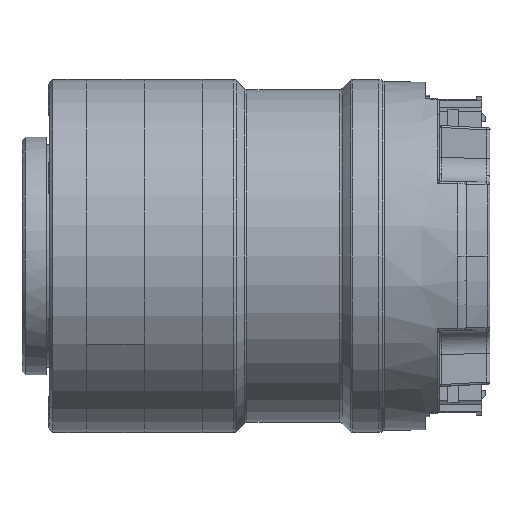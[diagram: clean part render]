
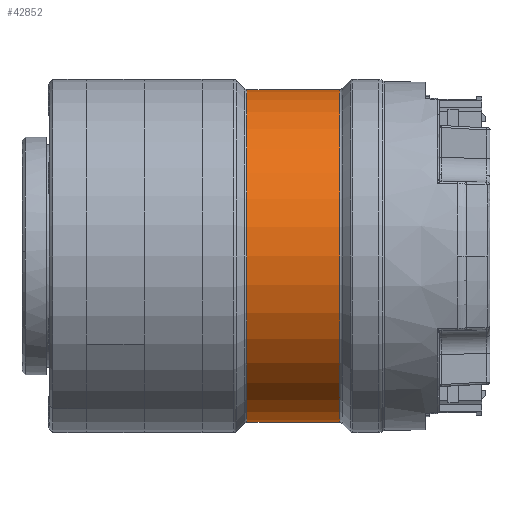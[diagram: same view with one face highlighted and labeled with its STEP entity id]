
A CAD part, left-side view. The second image highlights one B-rep face of the part: STEP entity #42852.
In plain terms, the highlighted cylindrical face has radius 24.5 mm (diameter 49 mm), a partial arc.
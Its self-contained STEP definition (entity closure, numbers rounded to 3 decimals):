
#178 = ORIENTED_EDGE ( 'NONE', *, *, #5228, .T. ) ;
#5228 = EDGE_CURVE ( 'NONE', #10365, #51270, #62565, .T. ) ;
#8302 = ORIENTED_EDGE ( 'NONE', *, *, #34677, .T. ) ;
#8352 = DIRECTION ( 'NONE',  ( 1., 0., 0. ) ) ;
#8779 = DIRECTION ( 'NONE',  ( 0., -1., 0. ) ) ;
#10365 = VERTEX_POINT ( 'NONE', #20191 ) ;
#13682 = VERTEX_POINT ( 'NONE', #29409 ) ;
#14488 = CARTESIAN_POINT ( 'NONE',  ( 0., -12., -24.5 ) ) ;
#19417 = CARTESIAN_POINT ( 'NONE',  ( 0., -11.107, 0. ) ) ;
#20191 = CARTESIAN_POINT ( 'NONE',  ( 0., -11.107, -24.5 ) ) ;
#21215 = CARTESIAN_POINT ( 'NONE',  ( 0., -12., 0. ) ) ;
#23309 = VERTEX_POINT ( 'NONE', #56724 ) ;
#24321 = EDGE_LOOP ( 'NONE', ( #25412, #8302, #178, #63761 ) ) ;
#25412 = ORIENTED_EDGE ( 'NONE', *, *, #67015, .F. ) ;
#29409 = CARTESIAN_POINT ( 'NONE',  ( 0., -24.793, 24.5 ) ) ;
#29634 = DIRECTION ( 'NONE',  ( 1., 0., 0. ) ) ;
#30726 = DIRECTION ( 'NONE',  ( 0., 1., 0. ) ) ;
#34677 = EDGE_CURVE ( 'NONE', #23309, #10365, #58317, .T. ) ;
#36721 = AXIS2_PLACEMENT_3D ( 'NONE', #19417, #56884, #8352 ) ;
#38370 = EDGE_CURVE ( 'NONE', #51270, #13682, #52479, .T. ) ;
#38415 = FACE_OUTER_BOUND ( 'NONE', #24321, .T. ) ;
#42061 = CARTESIAN_POINT ( 'NONE',  ( 0., -24.793, -24.5 ) ) ;
#42852 = ADVANCED_FACE ( 'NONE', ( #38415 ), #79127, .T. ) ;
#51270 = VERTEX_POINT ( 'NONE', #42061 ) ;
#51310 = CARTESIAN_POINT ( 'NONE',  ( 0., -12., 24.5 ) ) ;
#51913 = DIRECTION ( 'NONE',  ( 0., 0., -1. ) ) ;
#52479 = CIRCLE ( 'NONE', #71379, 24.5 ) ;
#56724 = CARTESIAN_POINT ( 'NONE',  ( 0., -11.107, 24.5 ) ) ;
#56884 = DIRECTION ( 'NONE',  ( 0., -1., 0. ) ) ;
#58317 = CIRCLE ( 'NONE', #36721, 24.5 ) ;
#59060 = VECTOR ( 'NONE', #76481, 1000. ) ;
#61056 = LINE ( 'NONE', #51310, #59060 ) ;
#62565 = LINE ( 'NONE', #14488, #77042 ) ;
#63761 = ORIENTED_EDGE ( 'NONE', *, *, #38370, .T. ) ;
#64670 = DIRECTION ( 'NONE',  ( 0., -1., 0. ) ) ;
#67015 = EDGE_CURVE ( 'NONE', #23309, #13682, #61056, .T. ) ;
#71379 = AXIS2_PLACEMENT_3D ( 'NONE', #73287, #30726, #29634 ) ;
#73287 = CARTESIAN_POINT ( 'NONE',  ( 0., -24.793, 0. ) ) ;
#73379 = AXIS2_PLACEMENT_3D ( 'NONE', #21215, #8779, #51913 ) ;
#76481 = DIRECTION ( 'NONE',  ( 0., -1., 0. ) ) ;
#77042 = VECTOR ( 'NONE', #64670, 1000. ) ;
#79127 = CYLINDRICAL_SURFACE ( 'NONE', #73379, 24.5 ) ;
